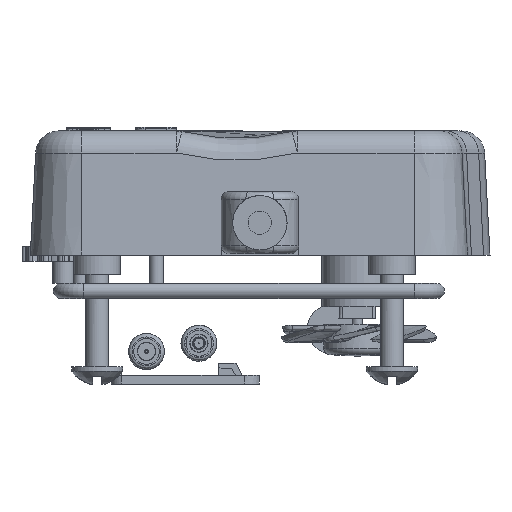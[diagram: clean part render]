
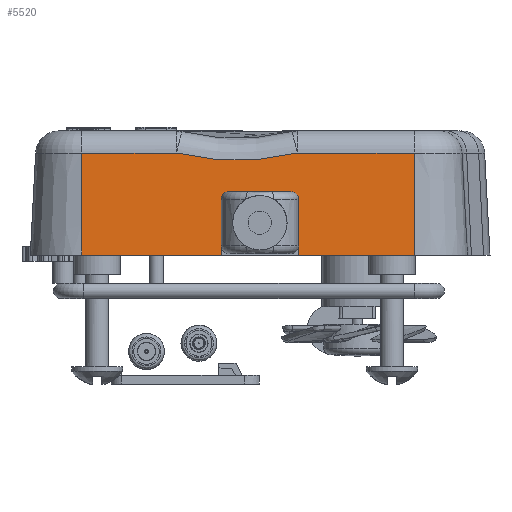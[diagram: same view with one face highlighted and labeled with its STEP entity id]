
A CAD part, left-side view. The second image highlights one B-rep face of the part: STEP entity #5520.
In plain terms, the highlighted planar face has unit normal (-0.999, 0, 0.052).
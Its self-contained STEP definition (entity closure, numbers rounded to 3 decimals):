
#4180=ELLIPSE('',#67694,1.001,1.);
#4181=ELLIPSE('',#67695,1.001,1.);
#5520=ADVANCED_FACE('',(#11463),#8935,.F.);
#8935=PLANE('',#67696);
#11463=FACE_OUTER_BOUND('',#14978,.T.);
#14978=EDGE_LOOP('',(#33763,#33764,#33765,#33766,#33767,#33768,#33769,#33770,
#33771,#33772,#33773,#33774,#33775));
#19159=LINE('',#92873,#25769);
#19160=LINE('',#92878,#25770);
#19161=LINE('',#92882,#25771);
#19162=LINE('',#92884,#25772);
#19163=LINE('',#92891,#25773);
#19164=LINE('',#92900,#25774);
#19165=LINE('',#92912,#25775);
#25769=VECTOR('',#73935,1.);
#25770=VECTOR('',#73938,1.);
#25771=VECTOR('',#73941,1.);
#25772=VECTOR('',#73942,1.);
#25773=VECTOR('',#73943,1.);
#25774=VECTOR('',#73944,1.);
#25775=VECTOR('',#73945,1.);
#33763=ORIENTED_EDGE('',*,*,#57593,.T.);
#33764=ORIENTED_EDGE('',*,*,#57594,.T.);
#33765=ORIENTED_EDGE('',*,*,#57595,.T.);
#33766=ORIENTED_EDGE('',*,*,#57596,.T.);
#33767=ORIENTED_EDGE('',*,*,#57597,.T.);
#33768=ORIENTED_EDGE('',*,*,#57598,.F.);
#33769=ORIENTED_EDGE('',*,*,#57599,.T.);
#33770=ORIENTED_EDGE('',*,*,#57600,.T.);
#33771=ORIENTED_EDGE('',*,*,#57601,.T.);
#33772=ORIENTED_EDGE('',*,*,#57602,.T.);
#33773=ORIENTED_EDGE('',*,*,#57603,.T.);
#33774=ORIENTED_EDGE('',*,*,#57604,.T.);
#33775=ORIENTED_EDGE('',*,*,#57605,.F.);
#51120=VERTEX_POINT('',#92874);
#51121=VERTEX_POINT('',#92875);
#51122=VERTEX_POINT('',#92877);
#51123=VERTEX_POINT('',#92879);
#51124=VERTEX_POINT('',#92881);
#51125=VERTEX_POINT('',#92883);
#51126=VERTEX_POINT('',#92885);
#51127=VERTEX_POINT('',#92890);
#51128=VERTEX_POINT('',#92892);
#51129=VERTEX_POINT('',#92899);
#51130=VERTEX_POINT('',#92901);
#51131=VERTEX_POINT('',#92906);
#51132=VERTEX_POINT('',#92911);
#57593=EDGE_CURVE('',#51120,#51121,#19159,.T.);
#57594=EDGE_CURVE('',#51121,#51122,#4180,.T.);
#57595=EDGE_CURVE('',#51122,#51123,#19160,.T.);
#57596=EDGE_CURVE('',#51123,#51124,#4181,.T.);
#57597=EDGE_CURVE('',#51124,#51125,#19161,.T.);
#57598=EDGE_CURVE('',#51126,#51125,#19162,.T.);
#57599=EDGE_CURVE('',#51126,#51127,#65971,.T.);
#57600=EDGE_CURVE('',#51127,#51128,#19163,.T.);
#57601=EDGE_CURVE('',#51128,#51129,#65972,.T.);
#57602=EDGE_CURVE('',#51129,#51130,#19164,.T.);
#57603=EDGE_CURVE('',#51130,#51131,#65973,.T.);
#57604=EDGE_CURVE('',#51131,#51132,#65974,.T.);
#57605=EDGE_CURVE('',#51120,#51132,#19165,.T.);
#65971=B_SPLINE_CURVE_WITH_KNOTS('',3,(#92886,#92887,#92888,#92889),
 .UNSPECIFIED.,.F.,.F.,(4,4),(0.,1.),.UNSPECIFIED.);
#65972=B_SPLINE_CURVE_WITH_KNOTS('',3,(#92893,#92894,#92895,#92896,#92897,
#92898),.UNSPECIFIED.,.F.,.F.,(4,2,4),(0.,0.5,1.),.UNSPECIFIED.);
#65973=B_SPLINE_CURVE_WITH_KNOTS('',3,(#92902,#92903,#92904,#92905),
 .UNSPECIFIED.,.F.,.F.,(4,4),(0.,1.),.UNSPECIFIED.);
#65974=B_SPLINE_CURVE_WITH_KNOTS('',3,(#92907,#92908,#92909,#92910),
 .UNSPECIFIED.,.F.,.F.,(4,4),(0.,1.),.UNSPECIFIED.);
#67694=AXIS2_PLACEMENT_3D('',#92876,#73936,#73937);
#67695=AXIS2_PLACEMENT_3D('',#92880,#73939,#73940);
#67696=AXIS2_PLACEMENT_3D('',#92913,#73946,#73947);
#73935=DIRECTION('',(0.052,0.,0.999));
#73936=DIRECTION('',(0.999,0.,-0.052));
#73937=DIRECTION('',(-0.052,0.,-0.999));
#73938=DIRECTION('',(0.,-1.,0.));
#73939=DIRECTION('',(0.999,0.,-0.052));
#73940=DIRECTION('',(-0.052,0.,-0.999));
#73941=DIRECTION('',(-0.052,0.,-0.999));
#73942=DIRECTION('',(0.,1.,0.));
#73943=DIRECTION('',(0.,1.,0.));
#73944=DIRECTION('',(0.,1.,0.));
#73945=DIRECTION('',(0.,1.,0.));
#73946=DIRECTION('',(0.999,0.,-0.052));
#73947=DIRECTION('',(0.052,0.,0.999));
#92873=CARTESIAN_POINT('',(-32.512,2.6,15.419));
#92874=CARTESIAN_POINT('',(-32.569,2.6,14.33));
#92875=CARTESIAN_POINT('',(-32.193,2.6,21.5));
#92876=CARTESIAN_POINT('',(-32.193,1.6,21.5));
#92877=CARTESIAN_POINT('',(-32.141,1.6,22.5));
#92878=CARTESIAN_POINT('',(-32.141,-1.931,22.5));
#92879=CARTESIAN_POINT('',(-32.141,-6.4,22.5));
#92880=CARTESIAN_POINT('',(-32.193,-6.4,21.5));
#92881=CARTESIAN_POINT('',(-32.193,-7.4,21.5));
#92882=CARTESIAN_POINT('',(-32.512,-7.4,15.419));
#92883=CARTESIAN_POINT('',(-32.569,-7.4,14.33));
#92884=CARTESIAN_POINT('',(-32.569,-1.931,14.33));
#92885=CARTESIAN_POINT('',(-32.569,-22.304,14.33));
#92886=CARTESIAN_POINT('',(-32.569,-22.304,14.33));
#92887=CARTESIAN_POINT('',(-32.339,-22.304,18.715));
#92888=CARTESIAN_POINT('',(-32.11,-22.304,23.101));
#92889=CARTESIAN_POINT('',(-31.88,-22.304,27.487));
#92890=CARTESIAN_POINT('',(-31.88,-22.304,27.487));
#92891=CARTESIAN_POINT('',(-31.88,-5.646,27.487));
#92892=CARTESIAN_POINT('',(-31.88,-7.23,27.487));
#92893=CARTESIAN_POINT('',(-31.88,-7.23,27.487));
#92894=CARTESIAN_POINT('',(-31.913,-4.658,26.859));
#92895=CARTESIAN_POINT('',(-31.929,-2.068,26.545));
#92896=CARTESIAN_POINT('',(-31.93,3.148,26.534));
#92897=CARTESIAN_POINT('',(-31.913,5.797,26.847));
#92898=CARTESIAN_POINT('',(-31.88,8.367,27.487));
#92899=CARTESIAN_POINT('',(-31.88,8.367,27.487));
#92900=CARTESIAN_POINT('',(-31.88,20.593,27.487));
#92901=CARTESIAN_POINT('',(-31.877,20.593,27.487));
#92902=CARTESIAN_POINT('',(-31.88,20.593,27.487));
#92903=CARTESIAN_POINT('',(-32.043,20.593,24.372));
#92904=CARTESIAN_POINT('',(-32.206,20.593,21.258));
#92905=CARTESIAN_POINT('',(-32.369,20.593,18.143));
#92906=CARTESIAN_POINT('',(-32.369,20.593,18.143));
#92907=CARTESIAN_POINT('',(-32.369,20.593,18.143));
#92908=CARTESIAN_POINT('',(-32.436,20.593,16.872));
#92909=CARTESIAN_POINT('',(-32.503,20.593,15.601));
#92910=CARTESIAN_POINT('',(-32.569,20.593,14.33));
#92911=CARTESIAN_POINT('',(-32.567,20.593,14.33));
#92912=CARTESIAN_POINT('',(-32.569,-1.931,14.33));
#92913=CARTESIAN_POINT('',(-32.512,-1.931,15.419));
